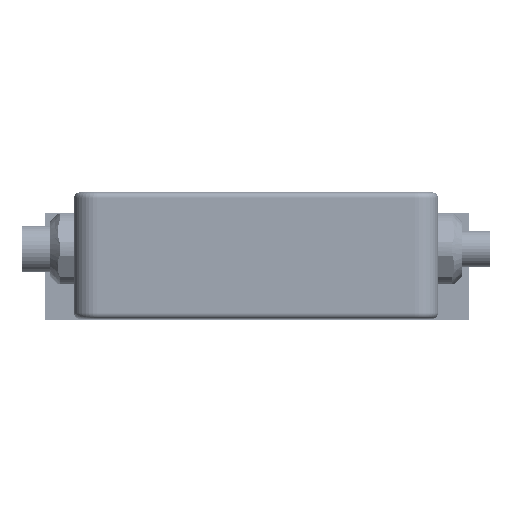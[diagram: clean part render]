
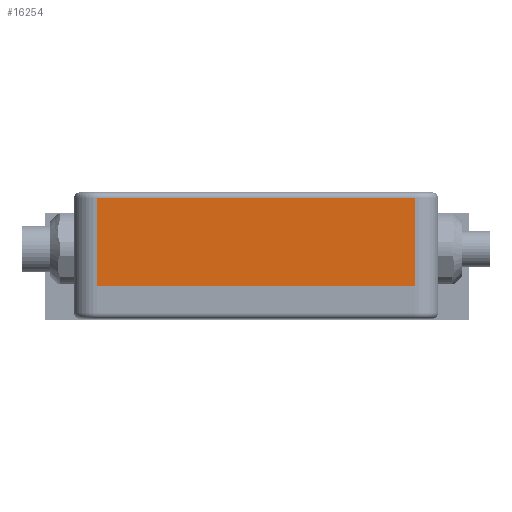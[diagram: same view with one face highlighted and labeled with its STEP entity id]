
A CAD part, front view. The second image highlights one B-rep face of the part: STEP entity #16254.
In plain terms, the highlighted planar face has unit normal (0, -1, 0) as drawn and (0, 0, 1) by its records, which use the part's own axes.
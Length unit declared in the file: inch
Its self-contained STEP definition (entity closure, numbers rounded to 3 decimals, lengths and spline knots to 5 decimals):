
#6488 = EDGE_LOOP ( 'NONE', ( #65062, #22879, #13221, #87111 ) ) ;
#7524 = LINE ( 'NONE', #56359, #9071 ) ;
#9071 = VECTOR ( 'NONE', #64869, 39.37008 ) ;
#12511 = CARTESIAN_POINT ( 'NONE',  ( -1.68, 0.99, 1.26 ) ) ;
#13221 = ORIENTED_EDGE ( 'NONE', *, *, #92734, .T. ) ;
#15208 = VECTOR ( 'NONE', #56878, 39.37008 ) ;
#15673 = PLANE ( 'NONE',  #21553 ) ;
#16254 = ADVANCED_FACE ( 'NONE', ( #27139 ), #15673, .F. ) ;
#17122 = CARTESIAN_POINT ( 'NONE',  ( 1.68, 0.99, 1.26 ) ) ;
#18099 = VECTOR ( 'NONE', #58438, 39.37008 ) ;
#19740 = CARTESIAN_POINT ( 'NONE',  ( -1.68, 0.0625, 1.26 ) ) ;
#20284 = EDGE_CURVE ( 'NONE', #93787, #87432, #7524, .T. ) ;
#21553 = AXIS2_PLACEMENT_3D ( 'NONE', #71260, #117643, #116034 ) ;
#22879 = ORIENTED_EDGE ( 'NONE', *, *, #92738, .T. ) ;
#27139 = FACE_OUTER_BOUND ( 'NONE', #6488, .T. ) ;
#31914 = VECTOR ( 'NONE', #85313, 39.37008 ) ;
#42901 = LINE ( 'NONE', #94209, #18099 ) ;
#45396 = VERTEX_POINT ( 'NONE', #56794 ) ;
#47425 = EDGE_CURVE ( 'NONE', #93787, #49034, #84120, .T. ) ;
#49034 = VERTEX_POINT ( 'NONE', #17122 ) ;
#56359 = CARTESIAN_POINT ( 'NONE',  ( -1.68, 0.99, 1.26 ) ) ;
#56794 = CARTESIAN_POINT ( 'NONE',  ( 1.68, 0.0625, 1.26 ) ) ;
#56878 = DIRECTION ( 'NONE',  ( 1., 0., 0. ) ) ;
#58438 = DIRECTION ( 'NONE',  ( 0., 1., 0. ) ) ;
#64615 = LINE ( 'NONE', #94988, #15208 ) ;
#64869 = DIRECTION ( 'NONE',  ( 0., -1., 0. ) ) ;
#65062 = ORIENTED_EDGE ( 'NONE', *, *, #20284, .T. ) ;
#71260 = CARTESIAN_POINT ( 'NONE',  ( -1.93, 0.99, 1.26 ) ) ;
#76749 = CARTESIAN_POINT ( 'NONE',  ( -1.93, 0.99, 1.26 ) ) ;
#84120 = LINE ( 'NONE', #76749, #31914 ) ;
#85313 = DIRECTION ( 'NONE',  ( 1., 0., 0. ) ) ;
#87111 = ORIENTED_EDGE ( 'NONE', *, *, #47425, .F. ) ;
#87432 = VERTEX_POINT ( 'NONE', #19740 ) ;
#92734 = EDGE_CURVE ( 'NONE', #45396, #49034, #42901, .T. ) ;
#92738 = EDGE_CURVE ( 'NONE', #87432, #45396, #64615, .T. ) ;
#93787 = VERTEX_POINT ( 'NONE', #12511 ) ;
#94209 = CARTESIAN_POINT ( 'NONE',  ( 1.68, 0.99, 1.26 ) ) ;
#94988 = CARTESIAN_POINT ( 'NONE',  ( 1.68, 0.0625, 1.26 ) ) ;
#116034 = DIRECTION ( 'NONE',  ( -1., 0., 0. ) ) ;
#117643 = DIRECTION ( 'NONE',  ( 0., 0., -1. ) ) ;
